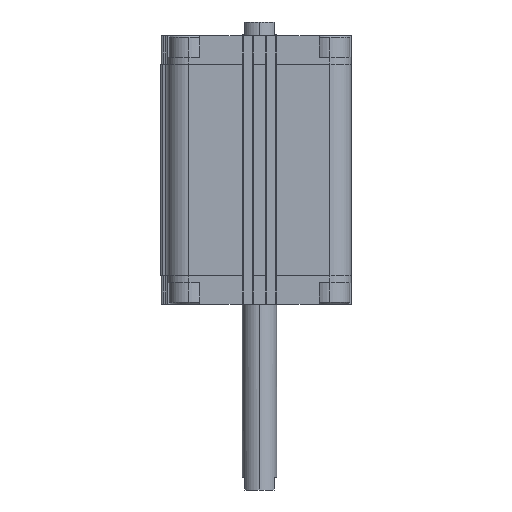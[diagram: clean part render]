
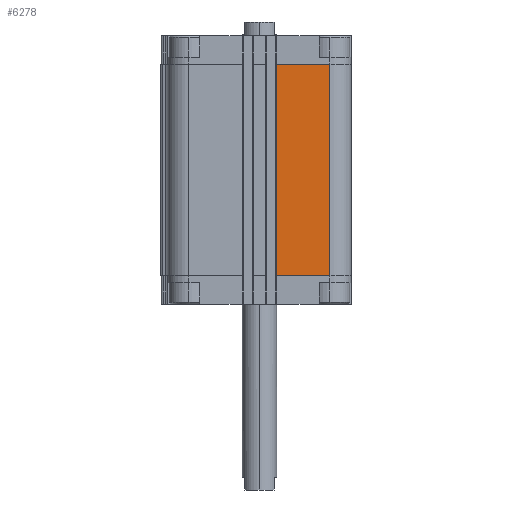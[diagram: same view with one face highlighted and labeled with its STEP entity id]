
A CAD part, left-side view. The second image highlights one B-rep face of the part: STEP entity #6278.
In plain terms, the highlighted planar face has unit normal (-1, 0, 0).
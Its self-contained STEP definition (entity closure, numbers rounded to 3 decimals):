
#28 = EDGE_CURVE ( 'NONE', #17897, #20616, #6432, .T. ) ;
#65 = VECTOR ( 'NONE', #19835, 1000. ) ;
#766 = CARTESIAN_POINT ( 'NONE',  ( -53.5, -9.95, -16.5 ) ) ;
#2119 = PLANE ( 'NONE',  #5543 ) ;
#2328 = LINE ( 'NONE', #17165, #9800 ) ;
#3487 = VECTOR ( 'NONE', #16304, 1000. ) ;
#3647 = VECTOR ( 'NONE', #18703, 1000. ) ;
#3892 = LINE ( 'NONE', #766, #3647 ) ;
#5373 = DIRECTION ( 'NONE',  ( 0., -1., 0. ) ) ;
#5543 = AXIS2_PLACEMENT_3D ( 'NONE', #13526, #15360, #5373 ) ;
#6278 = ADVANCED_FACE ( 'NONE', ( #6979 ), #2119, .T. ) ;
#6432 = LINE ( 'NONE', #19515, #3487 ) ;
#6637 = LINE ( 'NONE', #10077, #65 ) ;
#6856 = ORIENTED_EDGE ( 'NONE', *, *, #20001, .T. ) ;
#6979 = FACE_OUTER_BOUND ( 'NONE', #14612, .T. ) ;
#9319 = VERTEX_POINT ( 'NONE', #13476 ) ;
#9411 = CARTESIAN_POINT ( 'NONE',  ( -53.5, -41., -139.5 ) ) ;
#9800 = VECTOR ( 'NONE', #20482, 1000. ) ;
#10077 = CARTESIAN_POINT ( 'NONE',  ( -53.5, -41., -139.5 ) ) ;
#10291 = VERTEX_POINT ( 'NONE', #13850 ) ;
#11813 = ORIENTED_EDGE ( 'NONE', *, *, #14840, .F. ) ;
#12729 = EDGE_CURVE ( 'NONE', #9319, #10291, #3892, .T. ) ;
#13476 = CARTESIAN_POINT ( 'NONE',  ( -53.5, -9.95, -16.5 ) ) ;
#13526 = CARTESIAN_POINT ( 'NONE',  ( -53.5, -9.95, -139.5 ) ) ;
#13850 = CARTESIAN_POINT ( 'NONE',  ( -53.5, -41., -16.5 ) ) ;
#14612 = EDGE_LOOP ( 'NONE', ( #21173, #11813, #19194, #6856 ) ) ;
#14840 = EDGE_CURVE ( 'NONE', #17897, #9319, #2328, .T. ) ;
#15360 = DIRECTION ( 'NONE',  ( -1., 0., 0. ) ) ;
#15530 = CARTESIAN_POINT ( 'NONE',  ( -53.5, -9.95, -139.5 ) ) ;
#16304 = DIRECTION ( 'NONE',  ( 0., -1., 0. ) ) ;
#17165 = CARTESIAN_POINT ( 'NONE',  ( -53.5, -9.95, -139.5 ) ) ;
#17897 = VERTEX_POINT ( 'NONE', #15530 ) ;
#18703 = DIRECTION ( 'NONE',  ( 0., -1., 0. ) ) ;
#19194 = ORIENTED_EDGE ( 'NONE', *, *, #28, .T. ) ;
#19515 = CARTESIAN_POINT ( 'NONE',  ( -53.5, -9.95, -139.5 ) ) ;
#19835 = DIRECTION ( 'NONE',  ( 0., 0., 1. ) ) ;
#20001 = EDGE_CURVE ( 'NONE', #20616, #10291, #6637, .T. ) ;
#20482 = DIRECTION ( 'NONE',  ( 0., 0., 1. ) ) ;
#20616 = VERTEX_POINT ( 'NONE', #9411 ) ;
#21173 = ORIENTED_EDGE ( 'NONE', *, *, #12729, .F. ) ;
